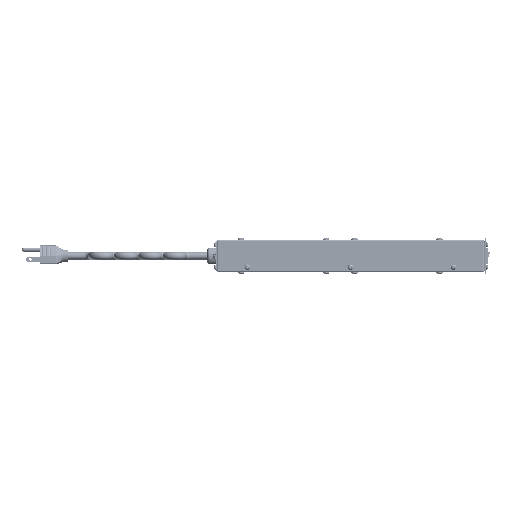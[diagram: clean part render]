
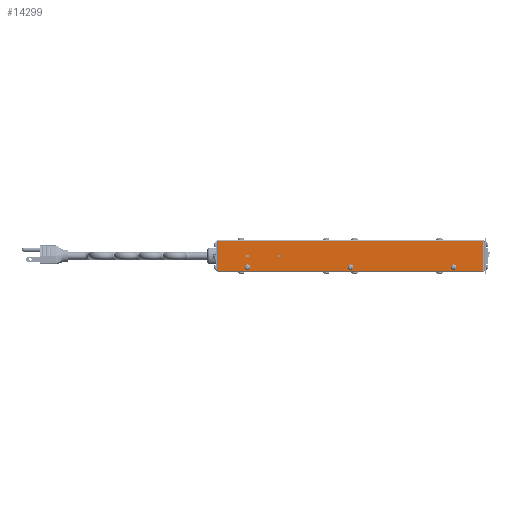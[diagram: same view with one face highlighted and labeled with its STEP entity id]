
A CAD part, left-side view. The second image highlights one B-rep face of the part: STEP entity #14299.
In plain terms, the highlighted planar face has unit normal (-1, 0, 0).
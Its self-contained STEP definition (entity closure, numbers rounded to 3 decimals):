
#12860=CARTESIAN_POINT('',(-202.115,-126.903,-30.46));
#12861=VERTEX_POINT('',#12860);
#12862=CARTESIAN_POINT('',(-202.115,-126.903,-32.847));
#12863=DIRECTION('',(1.0,0.0,0.0));
#12864=DIRECTION('',(0.0,0.0,-1.0));
#12865=AXIS2_PLACEMENT_3D('',#12862,#12863,#12864);
#12866=CIRCLE('',#12865,2.388);
#12867=EDGE_CURVE('',#12861,#12861,#12866,.T.);
#12891=CARTESIAN_POINT('',(-202.115,127.097,-17.607));
#12892=VERTEX_POINT('',#12891);
#12893=CARTESIAN_POINT('',(-202.115,127.097,-19.131));
#12894=DIRECTION('',(1.0,0.0,0.0));
#12895=DIRECTION('',(0.0,0.0,-1.0));
#12896=AXIS2_PLACEMENT_3D('',#12893,#12894,#12895);
#12897=CIRCLE('',#12896,1.524);
#12898=EDGE_CURVE('',#12892,#12892,#12897,.T.);
#12911=CARTESIAN_POINT('',(-202.115,88.489,-17.607));
#12912=VERTEX_POINT('',#12911);
#12913=CARTESIAN_POINT('',(-202.115,88.489,-19.131));
#12914=DIRECTION('',(1.0,0.0,0.0));
#12915=DIRECTION('',(0.0,0.0,-1.0));
#12916=AXIS2_PLACEMENT_3D('',#12913,#12914,#12915);
#12917=CIRCLE('',#12916,1.524);
#12918=EDGE_CURVE('',#12912,#12912,#12917,.T.);
#12928=CARTESIAN_POINT('',(-202.115,0.097,-30.46));
#12929=VERTEX_POINT('',#12928);
#12930=CARTESIAN_POINT('',(-202.115,0.097,-32.847));
#12931=DIRECTION('',(1.0,0.0,0.0));
#12932=DIRECTION('',(0.0,0.0,-1.0));
#12933=AXIS2_PLACEMENT_3D('',#12930,#12931,#12932);
#12934=CIRCLE('',#12933,2.388);
#12935=EDGE_CURVE('',#12929,#12929,#12934,.T.);
#12956=CARTESIAN_POINT('',(-202.115,127.097,-30.46));
#12957=VERTEX_POINT('',#12956);
#12958=CARTESIAN_POINT('',(-202.115,127.097,-32.847));
#12959=DIRECTION('',(1.0,0.0,0.0));
#12960=DIRECTION('',(0.0,0.0,-1.0));
#12961=AXIS2_PLACEMENT_3D('',#12958,#12959,#12960);
#12962=CIRCLE('',#12961,2.388);
#12963=EDGE_CURVE('',#12957,#12957,#12962,.T.);
#13142=CARTESIAN_POINT('',(-202.115,162.829,-1.087));
#13143=VERTEX_POINT('',#13142);
#13503=CARTESIAN_POINT('',(-202.115,-162.829,-1.087));
#13504=VERTEX_POINT('',#13503);
#13855=CARTESIAN_POINT('',(-202.115,162.829,-38.105));
#13856=VERTEX_POINT('',#13855);
#13864=CARTESIAN_POINT('',(-202.115,162.829,-38.105));
#13865=DIRECTION('',(0.0,0.0,1.0));
#13866=VECTOR('',#13865,37.018);
#13867=LINE('',#13864,#13866);
#13868=EDGE_CURVE('',#13856,#13143,#13867,.T.);
#13986=CARTESIAN_POINT('',(-202.115,-162.829,-38.105));
#13987=VERTEX_POINT('',#13986);
#13988=CARTESIAN_POINT('',(-202.115,-162.829,-1.087));
#13989=DIRECTION('',(0.0,0.0,-1.0));
#13990=VECTOR('',#13989,37.018);
#13991=LINE('',#13988,#13990);
#13992=EDGE_CURVE('',#13504,#13987,#13991,.T.);
#14136=CARTESIAN_POINT('',(-202.115,-162.829,-1.087));
#14137=DIRECTION('',(0.0,1.0,0.0));
#14138=VECTOR('',#14137,325.658);
#14139=LINE('',#14136,#14138);
#14140=EDGE_CURVE('',#13504,#13143,#14139,.T.);
#14261=CARTESIAN_POINT('',(-202.115,-162.829,-38.105));
#14262=DIRECTION('',(0.0,1.0,0.0));
#14263=VECTOR('',#14262,325.658);
#14264=LINE('',#14261,#14263);
#14265=EDGE_CURVE('',#13987,#13856,#14264,.T.);
#14273=CARTESIAN_POINT('',(-202.115,0.,-18.367));
#14274=DIRECTION('',(-1.0,0.0,0.0));
#14275=DIRECTION('',(0.0,0.0,1.0));
#14276=AXIS2_PLACEMENT_3D('',#14273,#14274,#14275);
#14277=PLANE('',#14276);
#14278=ORIENTED_EDGE('',*,*,#14140,.T.);
#14279=ORIENTED_EDGE('',*,*,#13868,.F.);
#14280=ORIENTED_EDGE('',*,*,#14265,.F.);
#14281=ORIENTED_EDGE('',*,*,#13992,.F.);
#14282=EDGE_LOOP('',(#14278,#14279,#14280,#14281));
#14283=FACE_OUTER_BOUND('',#14282,.T.);
#14284=ORIENTED_EDGE('',*,*,#12867,.T.);
#14285=EDGE_LOOP('',(#14284));
#14286=FACE_BOUND('',#14285,.T.);
#14287=ORIENTED_EDGE('',*,*,#12898,.T.);
#14288=EDGE_LOOP('',(#14287));
#14289=FACE_BOUND('',#14288,.T.);
#14290=ORIENTED_EDGE('',*,*,#12918,.T.);
#14291=EDGE_LOOP('',(#14290));
#14292=FACE_BOUND('',#14291,.T.);
#14293=ORIENTED_EDGE('',*,*,#12935,.T.);
#14294=EDGE_LOOP('',(#14293));
#14295=FACE_BOUND('',#14294,.T.);
#14296=ORIENTED_EDGE('',*,*,#12963,.T.);
#14297=EDGE_LOOP('',(#14296));
#14298=FACE_BOUND('',#14297,.T.);
#14299=ADVANCED_FACE('',(#14283,#14286,#14289,#14292,#14295,#14298),#14277,.T.);
